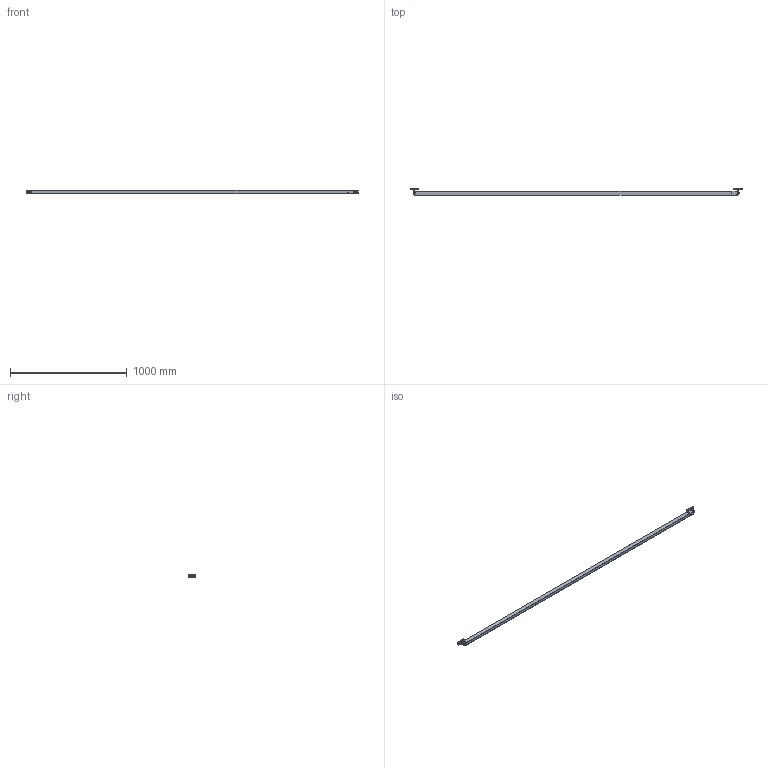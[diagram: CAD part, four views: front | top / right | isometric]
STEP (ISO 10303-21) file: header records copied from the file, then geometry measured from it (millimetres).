
FILE_DESCRIPTION((''),'2;1');
FILE_NAME('M:\INVENTORjob\Konstruktion\LV6036\Freigabe\Bauraummodelle\Geräte\MLC_T_2700.stp','2012-12-06T11:26:03',('seisen'),(''),'Autodesk Inventor 2009','Autodesk Inventor 2009','');
FILE_SCHEMA(('AUTOMOTIVE_DESIGN { 1 0 10303 214 1 1 1 1 }'));
Length unit declared in the file: millimetre
Products named in the file (13): MLC_T_2700; Anschlusskappe_T; Profil MLC 2700; Endkappe_T; BT-R_Zubehör; Wandteil_Zubehör; Klemmring_BT-R_Zubehör; DIN 912 - ersetzt durch DIN EN ISO 4762 M5 x 12; DIN 934 - ersetzt durch DIN EN 24032/28673/28674 M5; DIN 6912 M5 x 30; Zylinder_Zubehör; DIN 7991 - ersetzt durch DIN EN ISO 10642 M6  x  12; Nutenstein M6
Assembly tree (16 placements, depth 3):
  MLC_T_2700
    Anschlusskappe_T
    Profil MLC 2700
    Endkappe_T
    BT-R_Zubehör  x2
      Wandteil_Zubehör
      Klemmring_BT-R_Zubehör
      DIN 912 - ersetzt durch DIN EN ISO 4762 M5 x 12
      DIN 934 - ersetzt durch DIN EN 24032/28673/28674 M5
      DIN 6912 M5 x 30
    Zylinder_Zubehör
    DIN 7991 - ersetzt durch DIN EN ISO 10642 M6  x  12
    Nutenstein M6  x2
Bounding box: 2839.91 x 55.35 x 34 mm (x, y, z)
Volume: 2508405.7 mm3; surface area: 451734.4 mm2
Topology: 21 solids, 21 shells, 779 faces, 2035 edges, 1285 vertices
Faces by surface type: plane 325, cylinder 244, bspline 119, torus 42, cone 33, sphere 16
Full cylindrical faces by diameter (mm): 2.5 x2, 4.65 x2, 5 x12, 5.18 x2, 5.55 x2, 6 x1, 6.2 x9, 8.5 x4, 8.6 x2, 11.34 x1, 12 x1
Entity records: 12356 total; most frequent: CARTESIAN_POINT 4243, ORIENTED_EDGE 1642, DIRECTION 1525, EDGE_CURVE 821, AXIS2_PLACEMENT_3D 552, VERTEX_POINT 549, VECTOR 421, LINE 421
